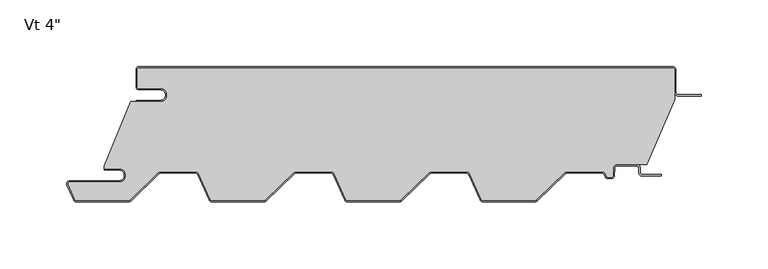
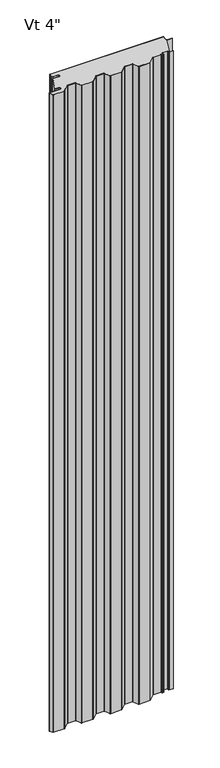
"""IFC4 building model written with IfcOpenShell, lengths in millimetres: plate geometry."""

import ifcopenshell
import ifcopenshell.guid

model = None  # the IFC model being written
_history = None  # IfcOwnerHistory: only IFC2X3 demands one
_inside = {}  # id of a spatial element -> (the spatial element, [elements in it])
_under = {}  # id of a project, library or spatial element -> (it, [spatial elements below it])
_declared = {}  # id of a project -> (the project, [libraries it declares])
_typed = {}  # id of a type object -> (the type object, [elements of that type])
_made_of = {}  # id of a material, layer set ... -> (it, [elements and type objects made of it])


def new_model(schema):
    """Start an empty IFC model of exactly this schema.

    Asked for "IFC4X3", IfcOpenShell would pick the latest addendum, in which some entities
    have other attributes; the version numbers below select the first issue.
    IFC2X3 requires an IfcOwnerHistory on every rooted entity: one is made here for all.
    """
    global model, _history
    if schema == "IFC4X3":
        model = ifcopenshell.file(schema_version=(4, 3, 0, 0))
    else:
        model = ifcopenshell.file(schema=schema)
    _inside.clear()
    _under.clear()
    _declared.clear()
    _typed.clear()
    _made_of.clear()
    _history = None
    if model.schema == "IFC2X3":
        org = make("IfcOrganization", Name="unknown")
        user = make(
            "IfcPersonAndOrganization",
            ThePerson=make("IfcPerson", FamilyName="unknown"),
            TheOrganization=org,
        )
        app = make(
            "IfcApplication",
            ApplicationDeveloper=org,
            Version="unknown",
            ApplicationFullName="unknown",
            ApplicationIdentifier="unknown",
        )
        _history = make(
            "IfcOwnerHistory",
            OwningUser=user,
            OwningApplication=app,
            ChangeAction="ADDED",
            CreationDate=0,
        )
    return model


def make(cls, **values):
    """One entity of the class cls with the attributes given. An attribute that is None is left unset."""
    return model.create_entity(
        cls, **{name: value for name, value in values.items() if value is not None}
    )


def rooted(cls, **values):
    """An entity with a GlobalId (a new one), such as an element, a storey or a relation."""
    return make(cls, GlobalId=ifcopenshell.guid.new(), OwnerHistory=_history, **values)


def si_unit(unit_type, name, prefix=None):
    """IfcSIUnit, for example si_unit("LENGTHUNIT", "METRE", prefix="MILLI")."""
    return make("IfcSIUnit", UnitType=unit_type, Prefix=prefix, Name=name)


def assignment(units):
    """IfcUnitAssignment: the units of a project."""
    return None if units is None else make("IfcUnitAssignment", Units=units)


def point(xyz):
    """IfcCartesianPoint."""
    return None if xyz is None else make("IfcCartesianPoint", Coordinates=xyz)


def direction(xyz):
    """IfcDirection."""
    return None if xyz is None else make("IfcDirection", DirectionRatios=xyz)


def frame(location, z_axis=None, x_axis=None):
    """IfcAxis2Placement3D, a coordinate frame: its origin and axes. An axis left out is left unset."""
    return make(
        "IfcAxis2Placement3D",
        Location=point(location),
        Axis=direction(z_axis),
        RefDirection=direction(x_axis),
    )


def frame_2d(location, x_axis=None):
    """IfcAxis2Placement2D, a coordinate frame in the plane: its origin and x axis."""
    return make(
        "IfcAxis2Placement2D", Location=point(location), RefDirection=direction(x_axis)
    )


def origin():
    """The frame at (0, 0, 0) with its axes left unset."""
    return frame((0.0, 0.0, 0.0))


def origin_with_axes():
    """The frame at (0, 0, 0) with the z axis (0, 0, 1) and the x axis (1, 0, 0) written out."""
    return frame((0.0, 0.0, 0.0), z_axis=(0.0, 0.0, 1.0), x_axis=(1.0, 0.0, 0.0))


def place(relative_to, where):
    """IfcLocalPlacement: puts the frame where relative to a parent placement (None: the world)."""
    return make(
        "IfcLocalPlacement", PlacementRelTo=relative_to, RelativePlacement=where
    )


def context(
    kind, dimensions, precision=None, world=None, true_north=None, identifier=None
):
    """IfcGeometricRepresentationContext, for example the 3D "Model" context."""
    return make(
        "IfcGeometricRepresentationContext",
        ContextIdentifier=identifier,
        ContextType=kind,
        CoordinateSpaceDimension=dimensions,
        Precision=precision,
        WorldCoordinateSystem=world,
        TrueNorth=true_north,
    )


def project(units=None, contexts=None):
    """IfcProject with its units and contexts."""
    return rooted(
        "IfcProject",
        Name="project",
        RepresentationContexts=contexts,
        UnitsInContext=assignment(units),
    )


def spatial(cls, under=None, at=None, **own):
    """A site, building, storey or space (cls), placed at a placement, below another one or the project."""
    s = rooted(cls, ObjectPlacement=at, **own)
    if under is not None:
        _under.setdefault(under.id(), (under, []))[1].append(s)
    return s


def polyline(points):
    """IfcPolyline through the points."""
    return make("IfcPolyline", Points=[point(p) for p in points])


def circle_curve(where, radius):
    """IfcCircle in the frame where."""
    return make("IfcCircle", Position=where, Radius=radius)


def trimmed(basis, trim1, trim2, sense, master):
    """IfcTrimmedCurve: the piece of a basis curve between two trims."""
    return make(
        "IfcTrimmedCurve",
        BasisCurve=basis,
        Trim1=trim1,
        Trim2=trim2,
        SenseAgreement=sense,
        MasterRepresentation=master,
    )


def segment(curve, same_sense, transition):
    """IfcCompositeCurveSegment."""
    return make(
        "IfcCompositeCurveSegment",
        Transition=transition,
        SameSense=same_sense,
        ParentCurve=curve,
    )


def composite_curve(segments, self_intersect=None):
    """IfcCompositeCurve: segments joined end to end."""
    return make("IfcCompositeCurve", Segments=segments, SelfIntersect=self_intersect)


def outline(outer, holes=None, kind="AREA"):
    """IfcArbitraryClosedProfileDef: a profile drawn as a closed curve; with holes, ...WithVoids."""
    if holes is None:
        return make("IfcArbitraryClosedProfileDef", ProfileType=kind, OuterCurve=outer)
    return make(
        "IfcArbitraryProfileDefWithVoids",
        ProfileType=kind,
        OuterCurve=outer,
        InnerCurves=holes,
    )


def extrude(swept, where, along, depth):
    """IfcExtrudedAreaSolid: the profile swept, set in the frame where, extruded along a direction by depth."""
    return make(
        "IfcExtrudedAreaSolid",
        SweptArea=swept,
        Position=where,
        ExtrudedDirection=direction(along),
        Depth=depth,
    )


def shape(context_of_items, identifier, shape_type, items):
    """IfcShapeRepresentation: the items that make up one representation, for example the "Body"."""
    return make(
        "IfcShapeRepresentation",
        ContextOfItems=context_of_items,
        RepresentationIdentifier=identifier,
        RepresentationType=shape_type,
        Items=items,
    )


def source(mapping_origin, context_of_items, identifier, shape_type, items):
    """IfcRepresentationMap: a shape defined once, which mapped items show again and again."""
    return make(
        "IfcRepresentationMap",
        MappingOrigin=mapping_origin,
        MappedRepresentation=shape(context_of_items, identifier, shape_type, items),
    )


def transform(
    local_origin,
    x_axis=None,
    y_axis=None,
    z_axis=None,
    scale=None,
    scale2=None,
    scale3=None,
    uniform=True,
):
    """IfcCartesianTransformationOperator3D, or its non-uniform kind. x_axis, y_axis, z_axis: its Axis1, 2, 3."""
    if uniform:
        return make(
            "IfcCartesianTransformationOperator3D",
            Axis1=direction(x_axis),
            Axis2=direction(y_axis),
            LocalOrigin=point(local_origin),
            Scale=scale,
            Axis3=direction(z_axis),
        )
    return make(
        "IfcCartesianTransformationOperator3DnonUniform",
        Axis1=direction(x_axis),
        Axis2=direction(y_axis),
        LocalOrigin=point(local_origin),
        Scale=scale,
        Axis3=direction(z_axis),
        Scale2=scale2,
        Scale3=scale3,
    )


def mapped(mapping_source, mapping_target):
    """IfcMappedItem: shows the shape of a source again, moved by a transform."""
    return make(
        "IfcMappedItem", MappingSource=mapping_source, MappingTarget=mapping_target
    )


def made_of(thing, what):
    """Note that an element or type object is made of a material, layer set ...; save() writes the relation."""
    if what is not None:
        _made_of.setdefault(what.id(), (what, []))[1].append(thing)
    return thing


def element(
    cls,
    number,
    at=None,
    inside=None,
    cuts=None,
    type_object=None,
    material=None,
    context=None,
    identifier="Body",
    shape_type=None,
    held_by="IfcProductDefinitionShape",
    body=None,
    shapes=None,
    **own,
):
    """One element of the class cls, such as IfcWall. Its Tag is "e" and its number.

    at: its placement. inside: the storey or other place that contains it. cuts: it is an
    opening in that element (IfcRelVoidsElement). A single representation is given by context,
    identifier, shape_type and body (its items); several are given by shapes. held_by: the class
    of the entity that holds the representations. save() writes the other relations.
    """
    e = rooted(cls, Tag="e%d" % number, ObjectPlacement=at, **own)
    if body is not None:
        shapes = [shape(context, identifier, shape_type, body)]
    if shapes is not None:
        e.Representation = make(held_by, Representations=shapes)
    if inside is not None:
        _inside.setdefault(inside.id(), (inside, []))[1].append(e)
    if cuts is not None:
        rooted(
            "IfcRelVoidsElement", RelatingBuildingElement=cuts, RelatedOpeningElement=e
        )
    if type_object is not None:
        _typed.setdefault(type_object.id(), (type_object, []))[1].append(e)
    return made_of(e, material)


def aggregate(whole, parts):
    """IfcRelAggregates: a whole, such as a stair, and the parts it consists of."""
    return rooted("IfcRelAggregates", RelatingObject=whole, RelatedObjects=parts)


def save(model, path):
    """Write the relations noted so far, then the file.

    IfcRelAggregates (storeys below a building ...), IfcRelContainedInSpatialStructure (elements
    in a storey), IfcRelDefinesByType, IfcRelAssociatesMaterial and IfcRelDeclares: one each for
    every whole, place, type object, material and project.
    """
    for whole, parts in _under.values():
        aggregate(whole, parts)
    for where, things in _inside.values():
        rooted(
            "IfcRelContainedInSpatialStructure",
            RelatedElements=things,
            RelatingStructure=where,
        )
    for kind, things in _typed.values():
        rooted("IfcRelDefinesByType", RelatedObjects=things, RelatingType=kind)
    for what, things in _made_of.values():
        rooted("IfcRelAssociatesMaterial", RelatedObjects=things, RelatingMaterial=what)
    for by, libraries in _declared.values():
        rooted("IfcRelDeclares", RelatingContext=by, RelatedDefinitions=libraries)
    model.write(path)


def plate_2a43e05b(model_context):
    return source(origin(), model_context, "Body", "SweptSolid", [
        extrude(outline(composite_curve([segment(trimmed(circle_curve(frame_2d((-184.14375, -21.4324412)), 4.96875), [point((-184.14375, -26.4011912))], [point((-184.14375, -16.4636912))], True, "CARTESIAN"), True, "CONTINUOUS"), segment(polyline([(-184.14375, -16.4636912), (-200.01875, -16.4636912)]), True, "CONTINUOUS"), segment(trimmed(circle_curve(frame_2d((-200.01875, -15.0824412)), 1.38125), [point((-200.01875, -16.4636912))], [point((-201.4, -15.0824412))], False, "CARTESIAN"), True, "CONTINUOUS"), segment(polyline([(-201.4, -15.0824412), (-201.4, -2.3824412)]), True, "CONTINUOUS"), segment(trimmed(circle_curve(frame_2d((-200.01875, -2.3824412)), 1.38125), [point((-201.4, -2.3824412))], [point((-200.01875, -1.0011912))], False, "CARTESIAN"), True, "CONTINUOUS"), segment(polyline([(-200.01875, -1.0011912), (200.03125, -1.0011912)]), True, "CONTINUOUS"), segment(trimmed(circle_curve(frame_2d((200.03125, -2.3824412)), 1.38125), [point((200.03125, -1.0011912))], [point((201.4125, -2.3824412))], False, "CARTESIAN"), True, "CONTINUOUS"), segment(polyline([(201.4125, -2.3824412), (201.4125, -24.8719682), (180.5955434, -73.6136912), (158.1683457, -73.6136912)]), True, "CONTINUOUS"), segment(trimmed(circle_curve(frame_2d((158.1683457, -76.2011912)), 2.5875), [point((158.1683457, -73.6136912))], [point((155.5843918, -76.0657719))], True, "CARTESIAN"), True, "CONTINUOUS"), segment(polyline([(155.5843918, -76.0657719), (155.2823155, -81.8297302)]), True, "CONTINUOUS"), segment(trimmed(circle_curve(frame_2d((153.9029585, -81.7574412)), 1.38125), [point((155.2823155, -81.8297302))], [point((153.9029585, -83.1386912))], False, "CARTESIAN"), True, "CONTINUOUS"), segment(polyline([(153.9029585, -83.1386912), (151.5754519, -83.1386912)]), True, "CONTINUOUS"), segment(trimmed(circle_curve(frame_2d((151.5754519, -81.7574412)), 1.38125), [point((151.5754519, -83.1386912))], [point((150.3124516, -82.3166208))], False, "CARTESIAN"), True, "CONTINUOUS"), segment(polyline([(150.3124516, -82.3166208), (149.5640306, -80.6261871)]), True, "CONTINUOUS"), segment(trimmed(circle_curve(frame_2d((147.1980481, -81.6737)), 2.5875), [point((149.5640306, -80.6261871))], [point((147.1980481, -79.0862))], True, "CARTESIAN"), True, "CONTINUOUS"), segment(polyline([(147.1980481, -79.0862), (120.6742003, -79.0862)]), True, "CONTINUOUS"), segment(trimmed(circle_curve(frame_2d((120.6742003, -81.6737)), 2.5875), [point((120.6742003, -79.0862))], [point((118.8745496, -79.8145567))], True, "CARTESIAN"), True, "CONTINUOUS"), segment(polyline([(118.8745496, -79.8145567), (97.8036462, -100.2111912)]), True, "CONTINUOUS"), segment(trimmed(circle_curve(frame_2d((96.8429631, -99.21875)), 1.38125), [point((97.8036462, -100.2111912))], [point((96.8429631, -100.6))], False, "CARTESIAN"), True, "CONTINUOUS"), segment(polyline([(96.8429631, -100.6), (57.7062557, -100.6)]), True, "CONTINUOUS"), segment(trimmed(circle_curve(frame_2d((57.7062557, -99.21875)), 1.38125), [point((57.7062557, -100.6))], [point((56.4432554, -99.7779296))], False, "CARTESIAN"), True, "CONTINUOUS"), segment(polyline([(56.4432554, -99.7779296), (47.9640306, -80.6261871)]), True, "CONTINUOUS"), segment(trimmed(circle_curve(frame_2d((45.5980481, -81.6737)), 2.5875), [point((47.9640306, -80.6261871))], [point((45.5980481, -79.0862))], True, "CARTESIAN"), True, "CONTINUOUS"), segment(polyline([(45.5980481, -79.0862), (19.0742003, -79.0862)]), True, "CONTINUOUS"), segment(trimmed(circle_curve(frame_2d((19.0742003, -81.6737)), 2.5875), [point((19.0742003, -79.0862))], [point((17.2745496, -79.8145567))], True, "CARTESIAN"), True, "CONTINUOUS"), segment(polyline([(17.2745496, -79.8145567), (-3.7963538, -100.2111912)]), True, "CONTINUOUS"), segment(trimmed(circle_curve(frame_2d((-4.7570369, -99.21875)), 1.38125), [point((-3.7963538, -100.2111912))], [point((-4.7570369, -100.6))], False, "CARTESIAN"), True, "CONTINUOUS"), segment(polyline([(-4.7570369, -100.6), (-43.8937443, -100.6)]), True, "CONTINUOUS"), segment(trimmed(circle_curve(frame_2d((-43.8937443, -99.21875)), 1.38125), [point((-43.8937443, -100.6))], [point((-45.1567446, -99.7779296))], False, "CARTESIAN"), True, "CONTINUOUS"), segment(polyline([(-45.1567446, -99.7779296), (-53.6359694, -80.6261871)]), True, "CONTINUOUS"), segment(trimmed(circle_curve(frame_2d((-56.0019519, -81.6737)), 2.5875), [point((-53.6359694, -80.6261871))], [point((-56.0019519, -79.0862))], True, "CARTESIAN"), True, "CONTINUOUS"), segment(polyline([(-56.0019519, -79.0862), (-82.5257997, -79.0862)]), True, "CONTINUOUS"), segment(trimmed(circle_curve(frame_2d((-82.5257997, -81.6737)), 2.5875), [point((-82.5257997, -79.0862))], [point((-84.3254504, -79.8145567))], True, "CARTESIAN"), True, "CONTINUOUS"), segment(polyline([(-84.3254504, -79.8145567), (-105.3963538, -100.2111912)]), True, "CONTINUOUS"), segment(trimmed(circle_curve(frame_2d((-106.3570369, -99.21875)), 1.38125), [point((-105.3963538, -100.2111912))], [point((-106.3570369, -100.6))], False, "CARTESIAN"), True, "CONTINUOUS"), segment(polyline([(-106.3570369, -100.6), (-145.4937443, -100.6)]), True, "CONTINUOUS"), segment(trimmed(circle_curve(frame_2d((-145.4937443, -99.21875)), 1.38125), [point((-145.4937443, -100.6))], [point((-146.7567446, -99.7779296))], False, "CARTESIAN"), True, "CONTINUOUS"), segment(polyline([(-146.7567446, -99.7779296), (-155.2359694, -80.6261871)]), True, "CONTINUOUS"), segment(trimmed(circle_curve(frame_2d((-157.6019519, -81.6737)), 2.5875), [point((-155.2359694, -80.6261871))], [point((-157.6019519, -79.0862))], True, "CARTESIAN"), True, "CONTINUOUS"), segment(polyline([(-157.6019519, -79.0862), (-184.1257997, -79.0862)]), True, "CONTINUOUS"), segment(trimmed(circle_curve(frame_2d((-184.1257997, -81.6737)), 2.5875), [point((-184.1257997, -79.0862))], [point((-185.9254504, -79.8145567))], True, "CARTESIAN"), True, "CONTINUOUS"), segment(polyline([(-185.9254504, -79.8145567), (-206.7876931, -100.0092077)]), True, "CONTINUOUS"), segment(trimmed(circle_curve(frame_2d((-208.2474446, -98.5012)), 2.0988), [point((-206.7876931, -100.0092077))], [point((-208.2474446, -100.6))], False, "CARTESIAN"), True, "CONTINUOUS"), segment(polyline([(-208.2474446, -100.6), (-247.0937443, -100.6)]), True, "CONTINUOUS"), segment(trimmed(circle_curve(frame_2d((-247.0937443, -99.21875)), 1.38125), [point((-247.0937443, -100.6))], [point((-248.3567446, -99.7779296))], False, "CARTESIAN"), True, "CONTINUOUS"), segment(polyline([(-248.3567446, -99.7779296), (-253.2761552, -88.6666208)]), True, "CONTINUOUS"), segment(trimmed(circle_curve(frame_2d((-252.0131549, -88.1074412)), 1.38125), [point((-253.2761552, -88.6666208))], [point((-252.0131549, -86.7261912))], False, "CARTESIAN"), True, "CONTINUOUS"), segment(polyline([(-252.0131549, -86.7261912), (-215.1, -86.7261912)]), True, "CONTINUOUS"), segment(trimmed(circle_curve(frame_2d((-215.1, -81.7574412)), 4.96875), [point((-215.1, -86.7261912))], [point((-215.1, -76.7886912))], True, "CARTESIAN"), True, "CONTINUOUS"), segment(polyline([(-215.1, -76.7886912), (-226.2125, -76.7886912), (-226.2125, -74.633822), (-206.3914112, -26.4011912), (-184.14375, -26.4011912)]), True, "CONTINUOUS")], self_intersect=False)), origin_with_axes(), (0.0, 0.0, 1.0), 2400.0),
        extrude(outline(composite_curve([segment(polyline([(-202.4, -25.4), (-184.14375, -25.4)]), True, "CONTINUOUS"), segment(trimmed(circle_curve(frame_2d((-184.14375, -21.43125)), 3.96875), [point((-184.14375, -25.4))], [point((-184.14375, -17.4625))], True, "CARTESIAN"), True, "CONTINUOUS"), segment(polyline([(-184.14375, -17.4625), (-200.01875, -17.4625)]), True, "CONTINUOUS"), segment(trimmed(circle_curve(frame_2d((-200.01875, -15.08125)), 2.38125), [point((-200.01875, -17.4625))], [point((-202.4, -15.08125))], False, "CARTESIAN"), True, "CONTINUOUS"), segment(polyline([(-202.4, -15.08125), (-202.4, -2.38125)]), True, "CONTINUOUS"), segment(trimmed(circle_curve(frame_2d((-200.01875, -2.38125)), 2.38125), [point((-202.4, -2.38125))], [point((-200.01875, 0.0))], False, "CARTESIAN"), True, "CONTINUOUS"), segment(polyline([(-200.01875, 0.0), (200.03125, 0.0)]), True, "CONTINUOUS"), segment(trimmed(circle_curve(frame_2d((200.03125, -2.38125)), 2.38125), [point((200.03125, 0.0))], [point((202.4125, -2.38125))], False, "CARTESIAN"), True, "CONTINUOUS"), segment(polyline([(202.4125, -2.38125), (202.4125, -19.446875)]), True, "CONTINUOUS"), segment(trimmed(circle_curve(frame_2d((204.0, -19.446875)), 1.5875), [point((202.4125, -19.446875))], [point((204.0, -21.034375))], True, "CARTESIAN"), True, "CONTINUOUS"), segment(polyline([(204.0, -21.034375), (221.4625, -21.034375), (221.4625, -22.034375), (204.0, -22.034375)]), True, "CONTINUOUS"), segment(trimmed(circle_curve(frame_2d((204.0, -19.446875)), 2.5875), [point((204.0, -22.034375))], [point((201.4125, -19.446875))], False, "CARTESIAN"), True, "CONTINUOUS"), segment(polyline([(201.4125, -19.446875), (201.4125, -2.38125)]), True, "CONTINUOUS"), segment(trimmed(circle_curve(frame_2d((200.03125, -2.38125)), 1.38125), [point((201.4125, -2.38125))], [point((200.03125, -1.0))], True, "CARTESIAN"), True, "CONTINUOUS"), segment(polyline([(200.03125, -1.0), (-200.01875, -1.0)]), True, "CONTINUOUS"), segment(trimmed(circle_curve(frame_2d((-200.01875, -2.38125)), 1.38125), [point((-200.01875, -1.0))], [point((-201.4, -2.38125))], True, "CARTESIAN"), True, "CONTINUOUS"), segment(polyline([(-201.4, -2.38125), (-201.4, -15.08125)]), True, "CONTINUOUS"), segment(trimmed(circle_curve(frame_2d((-200.01875, -15.08125)), 1.38125), [point((-201.4, -15.08125))], [point((-200.01875, -16.4625))], True, "CARTESIAN"), True, "CONTINUOUS"), segment(polyline([(-200.01875, -16.4625), (-184.14375, -16.4625)]), True, "CONTINUOUS"), segment(trimmed(circle_curve(frame_2d((-184.14375, -21.43125)), 4.96875), [point((-184.14375, -16.4625))], [point((-184.14375, -26.4))], False, "CARTESIAN"), True, "CONTINUOUS"), segment(polyline([(-184.14375, -26.4), (-202.4, -26.4), (-202.4, -25.4)]), True, "CONTINUOUS")], self_intersect=False)), origin_with_axes(), (0.0, 0.0, 1.0), 2400.0),
        extrude(outline(composite_curve([segment(trimmed(circle_curve(frame_2d((-215.1, -81.7574412)), 3.96875), [point((-215.1, -85.7261912))], [point((-215.1, -77.7886912))], True, "CARTESIAN"), True, "CONTINUOUS"), segment(polyline([(-215.1, -77.7886912), (-226.2125, -77.7886912), (-226.2125, -76.7886912), (-215.1, -76.7886912)]), True, "CONTINUOUS"), segment(trimmed(circle_curve(frame_2d((-215.1, -81.7574412)), 4.96875), [point((-215.1, -76.7886912))], [point((-215.1, -86.7261912))], False, "CARTESIAN"), True, "CONTINUOUS"), segment(polyline([(-215.1, -86.7261912), (-252.0131549, -86.7261912)]), True, "CONTINUOUS"), segment(trimmed(circle_curve(frame_2d((-252.0131549, -88.1074412)), 1.38125), [point((-252.0131549, -86.7261912))], [point((-253.2761552, -88.6666208))], True, "CARTESIAN"), True, "CONTINUOUS"), segment(polyline([(-253.2761552, -88.6666208), (-248.3567446, -99.7779296)]), True, "CONTINUOUS"), segment(trimmed(circle_curve(frame_2d((-247.0937443, -99.21875)), 1.38125), [point((-248.3567446, -99.7779296))], [point((-247.0937443, -100.6))], True, "CARTESIAN"), True, "CONTINUOUS"), segment(polyline([(-247.0937443, -100.6), (-208.2474446, -100.6)]), True, "CONTINUOUS"), segment(trimmed(circle_curve(frame_2d((-208.2474446, -98.5012)), 2.0988), [point((-208.2474446, -100.6))], [point((-206.7876931, -100.0092077))], True, "CARTESIAN"), True, "CONTINUOUS"), segment(polyline([(-206.7876931, -100.0092077), (-185.9254504, -79.8145567)]), True, "CONTINUOUS"), segment(trimmed(circle_curve(frame_2d((-184.1257997, -81.6737)), 2.5875), [point((-185.9254504, -79.8145567))], [point((-184.1257997, -79.0862))], False, "CARTESIAN"), True, "CONTINUOUS"), segment(polyline([(-184.1257997, -79.0862), (-157.6019519, -79.0862)]), True, "CONTINUOUS"), segment(trimmed(circle_curve(frame_2d((-157.6019519, -81.6737)), 2.5875), [point((-157.6019519, -79.0862))], [point((-155.2359694, -80.6261871))], False, "CARTESIAN"), True, "CONTINUOUS"), segment(polyline([(-155.2359694, -80.6261871), (-146.7567446, -99.7779296)]), True, "CONTINUOUS"), segment(trimmed(circle_curve(frame_2d((-145.4937443, -99.21875)), 1.38125), [point((-146.7567446, -99.7779296))], [point((-145.4937443, -100.6))], True, "CARTESIAN"), True, "CONTINUOUS"), segment(polyline([(-145.4937443, -100.6), (-106.3570369, -100.6)]), True, "CONTINUOUS"), segment(trimmed(circle_curve(frame_2d((-106.3570369, -99.21875)), 1.38125), [point((-106.3570369, -100.6))], [point((-105.3963538, -100.2111912))], True, "CARTESIAN"), True, "CONTINUOUS"), segment(polyline([(-105.3963538, -100.2111912), (-84.3254504, -79.8145567)]), True, "CONTINUOUS"), segment(trimmed(circle_curve(frame_2d((-82.5257997, -81.6737)), 2.5875), [point((-84.3254504, -79.8145567))], [point((-82.5257997, -79.0862))], False, "CARTESIAN"), True, "CONTINUOUS"), segment(polyline([(-82.5257997, -79.0862), (-56.0019519, -79.0862)]), True, "CONTINUOUS"), segment(trimmed(circle_curve(frame_2d((-56.0019519, -81.6737)), 2.5875), [point((-56.0019519, -79.0862))], [point((-53.6359694, -80.6261871))], False, "CARTESIAN"), True, "CONTINUOUS"), segment(polyline([(-53.6359694, -80.6261871), (-45.1567446, -99.7779296)]), True, "CONTINUOUS"), segment(trimmed(circle_curve(frame_2d((-43.8937443, -99.21875)), 1.38125), [point((-45.1567446, -99.7779296))], [point((-43.8937443, -100.6))], True, "CARTESIAN"), True, "CONTINUOUS"), segment(polyline([(-43.8937443, -100.6), (-4.7570369, -100.6)]), True, "CONTINUOUS"), segment(trimmed(circle_curve(frame_2d((-4.7570369, -99.21875)), 1.38125), [point((-4.7570369, -100.6))], [point((-3.7963538, -100.2111912))], True, "CARTESIAN"), True, "CONTINUOUS"), segment(polyline([(-3.7963538, -100.2111912), (17.2745496, -79.8145567)]), True, "CONTINUOUS"), segment(trimmed(circle_curve(frame_2d((19.0742003, -81.6737)), 2.5875), [point((17.2745496, -79.8145567))], [point((19.0742003, -79.0862))], False, "CARTESIAN"), True, "CONTINUOUS"), segment(polyline([(19.0742003, -79.0862), (45.5980481, -79.0862)]), True, "CONTINUOUS"), segment(trimmed(circle_curve(frame_2d((45.5980481, -81.6737)), 2.5875), [point((45.5980481, -79.0862))], [point((47.9640306, -80.6261871))], False, "CARTESIAN"), True, "CONTINUOUS"), segment(polyline([(47.9640306, -80.6261871), (56.4432554, -99.7779296)]), True, "CONTINUOUS"), segment(trimmed(circle_curve(frame_2d((57.7062557, -99.21875)), 1.38125), [point((56.4432554, -99.7779296))], [point((57.7062557, -100.6))], True, "CARTESIAN"), True, "CONTINUOUS"), segment(polyline([(57.7062557, -100.6), (96.8429631, -100.6)]), True, "CONTINUOUS"), segment(trimmed(circle_curve(frame_2d((96.8429631, -99.21875)), 1.38125), [point((96.8429631, -100.6))], [point((97.8036462, -100.2111912))], True, "CARTESIAN"), True, "CONTINUOUS"), segment(polyline([(97.8036462, -100.2111912), (118.8745496, -79.8145567)]), True, "CONTINUOUS"), segment(trimmed(circle_curve(frame_2d((120.6742003, -81.6737)), 2.5875), [point((118.8745496, -79.8145567))], [point((120.6742003, -79.0862))], False, "CARTESIAN"), True, "CONTINUOUS"), segment(polyline([(120.6742003, -79.0862), (147.1980481, -79.0862)]), True, "CONTINUOUS"), segment(trimmed(circle_curve(frame_2d((147.1980481, -81.6737)), 2.5875), [point((147.1980481, -79.0862))], [point((149.5640306, -80.6261871))], False, "CARTESIAN"), True, "CONTINUOUS"), segment(polyline([(149.5640306, -80.6261871), (150.3124516, -82.3166208)]), True, "CONTINUOUS"), segment(trimmed(circle_curve(frame_2d((151.5754519, -81.7574412)), 1.38125), [point((150.3124516, -82.3166208))], [point((151.5754519, -83.1386912))], True, "CARTESIAN"), True, "CONTINUOUS"), segment(polyline([(151.5754519, -83.1386912), (153.9029585, -83.1386912)]), True, "CONTINUOUS"), segment(trimmed(circle_curve(frame_2d((153.9029585, -81.7574412)), 1.38125), [point((153.9029585, -83.1386912))], [point((155.2823155, -81.8297302))], True, "CARTESIAN"), True, "CONTINUOUS"), segment(polyline([(155.2823155, -81.8297302), (155.5843918, -76.0657719)]), True, "CONTINUOUS"), segment(trimmed(circle_curve(frame_2d((158.1683457, -76.2011912)), 2.5875), [point((155.5843918, -76.0657719))], [point((158.1683457, -73.6136912))], False, "CARTESIAN"), True, "CONTINUOUS"), segment(polyline([(158.1683457, -73.6136912), (173.04375, -73.6136912)]), True, "CONTINUOUS"), segment(trimmed(circle_curve(frame_2d((173.04375, -76.2011912)), 2.5875), [point((173.04375, -73.6136912))], [point((175.63125, -76.2011912))], False, "CARTESIAN"), True, "CONTINUOUS"), segment(polyline([(175.63125, -76.2011912), (175.63125, -79.7730662)]), True, "CONTINUOUS"), segment(trimmed(circle_curve(frame_2d((177.0125, -79.7730662)), 1.38125), [point((175.63125, -79.7730662))], [point((177.0125, -81.1543162))], True, "CARTESIAN"), True, "CONTINUOUS"), segment(polyline([(177.0125, -81.1543162), (191.3, -81.1543162), (191.3, -82.1543162), (177.0125, -82.1543162)]), True, "CONTINUOUS"), segment(trimmed(circle_curve(frame_2d((177.0125, -79.7730662)), 2.38125), [point((177.0125, -82.1543162))], [point((174.63125, -79.7730662))], False, "CARTESIAN"), True, "CONTINUOUS"), segment(polyline([(174.63125, -79.7730662), (174.63125, -76.2011912)]), True, "CONTINUOUS"), segment(trimmed(circle_curve(frame_2d((173.04375, -76.2011912)), 1.5875), [point((174.63125, -76.2011912))], [point((173.04375, -74.6136912))], True, "CARTESIAN"), True, "CONTINUOUS"), segment(polyline([(173.04375, -74.6136912), (158.1683457, -74.6136912)]), True, "CONTINUOUS"), segment(trimmed(circle_curve(frame_2d((158.1683457, -76.2011912)), 1.5875), [point((158.1683457, -74.6136912))], [point((156.5830213, -76.1181078))], True, "CARTESIAN"), True, "CONTINUOUS"), segment(polyline([(156.5830213, -76.1181078), (156.2809451, -81.8820662)]), True, "CONTINUOUS"), segment(trimmed(circle_curve(frame_2d((153.9029585, -81.7574412)), 2.38125), [point((156.2809451, -81.8820662))], [point((153.9029585, -84.1386912))], False, "CARTESIAN"), True, "CONTINUOUS"), segment(polyline([(153.9029585, -84.1386912), (151.5754519, -84.1386912)]), True, "CONTINUOUS"), segment(trimmed(circle_curve(frame_2d((151.5754519, -81.7574412)), 2.38125), [point((151.5754519, -84.1386912))], [point((149.3980623, -82.7214567))], False, "CARTESIAN"), True, "CONTINUOUS"), segment(polyline([(149.3980623, -82.7214567), (148.6496412, -81.031023)]), True, "CONTINUOUS"), segment(trimmed(circle_curve(frame_2d((147.1980481, -81.6737)), 1.5875), [point((148.6496412, -81.031023))], [point((147.1980481, -80.0862))], True, "CARTESIAN"), True, "CONTINUOUS"), segment(polyline([(147.1980481, -80.0862), (120.6742003, -80.0862)]), True, "CONTINUOUS"), segment(trimmed(circle_curve(frame_2d((120.6742003, -81.6737)), 1.5875), [point((120.6742003, -80.0862))], [point((119.5700668, -80.5330662))], True, "CARTESIAN"), True, "CONTINUOUS"), segment(polyline([(119.5700668, -80.5330662), (98.4991634, -100.9297007)]), True, "CONTINUOUS"), segment(trimmed(circle_curve(frame_2d((96.8429631, -99.21875)), 2.38125), [point((98.4991634, -100.9297007))], [point((96.8429631, -101.6))], False, "CARTESIAN"), True, "CONTINUOUS"), segment(polyline([(96.8429631, -101.6), (57.7062557, -101.6)]), True, "CONTINUOUS"), segment(trimmed(circle_curve(frame_2d((57.7062557, -99.21875)), 2.38125), [point((57.7062557, -101.6))], [point((55.5288661, -100.1827655))], False, "CARTESIAN"), True, "CONTINUOUS"), segment(polyline([(55.5288661, -100.1827655), (47.0496412, -81.031023)]), True, "CONTINUOUS"), segment(trimmed(circle_curve(frame_2d((45.5980481, -81.6737)), 1.5875), [point((47.0496412, -81.031023))], [point((45.5980481, -80.0862))], True, "CARTESIAN"), True, "CONTINUOUS"), segment(polyline([(45.5980481, -80.0862), (19.0742003, -80.0862)]), True, "CONTINUOUS"), segment(trimmed(circle_curve(frame_2d((19.0742003, -81.6737)), 1.5875), [point((19.0742003, -80.0862))], [point((17.9700668, -80.5330662))], True, "CARTESIAN"), True, "CONTINUOUS"), segment(polyline([(17.9700668, -80.5330662), (-3.1008366, -100.9297007)]), True, "CONTINUOUS"), segment(trimmed(circle_curve(frame_2d((-4.7570369, -99.21875)), 2.38125), [point((-3.1008366, -100.9297007))], [point((-4.7570369, -101.6))], False, "CARTESIAN"), True, "CONTINUOUS"), segment(polyline([(-4.7570369, -101.6), (-43.8937443, -101.6)]), True, "CONTINUOUS"), segment(trimmed(circle_curve(frame_2d((-43.8937443, -99.21875)), 2.38125), [point((-43.8937443, -101.6))], [point((-46.0711339, -100.1827655))], False, "CARTESIAN"), True, "CONTINUOUS"), segment(polyline([(-46.0711339, -100.1827655), (-54.5503588, -81.031023)]), True, "CONTINUOUS"), segment(trimmed(circle_curve(frame_2d((-56.0019519, -81.6737)), 1.5875), [point((-54.5503588, -81.031023))], [point((-56.0019519, -80.0862))], True, "CARTESIAN"), True, "CONTINUOUS"), segment(polyline([(-56.0019519, -80.0862), (-82.5257997, -80.0862)]), True, "CONTINUOUS"), segment(trimmed(circle_curve(frame_2d((-82.5257997, -81.6737)), 1.5875), [point((-82.5257997, -80.0862))], [point((-83.6299332, -80.5330662))], True, "CARTESIAN"), True, "CONTINUOUS"), segment(polyline([(-83.6299332, -80.5330662), (-104.7008366, -100.9297007)]), True, "CONTINUOUS"), segment(trimmed(circle_curve(frame_2d((-106.3570369, -99.21875)), 2.38125), [point((-104.7008366, -100.9297007))], [point((-106.3570369, -101.6))], False, "CARTESIAN"), True, "CONTINUOUS"), segment(polyline([(-106.3570369, -101.6), (-145.4937443, -101.6)]), True, "CONTINUOUS"), segment(trimmed(circle_curve(frame_2d((-145.4937443, -99.21875)), 2.38125), [point((-145.4937443, -101.6))], [point((-147.6711339, -100.1827655))], False, "CARTESIAN"), True, "CONTINUOUS"), segment(polyline([(-147.6711339, -100.1827655), (-156.1503588, -81.031023)]), True, "CONTINUOUS"), segment(trimmed(circle_curve(frame_2d((-157.6019519, -81.6737)), 1.5875), [point((-156.1503588, -81.031023))], [point((-157.6019519, -80.0862))], True, "CARTESIAN"), True, "CONTINUOUS"), segment(polyline([(-157.6019519, -80.0862), (-184.1257997, -80.0862)]), True, "CONTINUOUS"), segment(trimmed(circle_curve(frame_2d((-184.1257997, -81.6737)), 1.5875), [point((-184.1257997, -80.0862))], [point((-185.2299332, -80.5330662))], True, "CARTESIAN"), True, "CONTINUOUS"), segment(polyline([(-185.2299332, -80.5330662), (-206.0921759, -100.7277172)]), True, "CONTINUOUS"), segment(trimmed(circle_curve(frame_2d((-208.2474446, -98.5012)), 3.0988), [point((-206.0921759, -100.7277172))], [point((-208.2474446, -101.6))], False, "CARTESIAN"), True, "CONTINUOUS"), segment(polyline([(-208.2474446, -101.6), (-247.0937443, -101.6)]), True, "CONTINUOUS"), segment(trimmed(circle_curve(frame_2d((-247.0937443, -99.21875)), 2.38125), [point((-247.0937443, -101.6))], [point((-249.2711339, -100.1827655))], False, "CARTESIAN"), True, "CONTINUOUS"), segment(polyline([(-249.2711339, -100.1827655), (-254.1905446, -89.0714567)]), True, "CONTINUOUS"), segment(trimmed(circle_curve(frame_2d((-252.0131549, -88.1074412)), 2.38125), [point((-254.1905446, -89.0714567))], [point((-252.0131549, -85.7261912))], False, "CARTESIAN"), True, "CONTINUOUS"), segment(polyline([(-252.0131549, -85.7261912), (-215.1, -85.7261912)]), True, "CONTINUOUS")], self_intersect=False)), origin_with_axes(), (0.0, 0.0, 1.0), 2400.0),
    ])


if __name__ == "__main__":
    model = new_model("IFC4")
    model_context = context("Model", 3, world=origin())
    ifc_project = project(units=[si_unit("LENGTHUNIT", "METRE", prefix="MILLI")], contexts=[model_context])
    site = spatial("IfcSite", under=ifc_project)
    building = spatial("IfcBuilding", under=site)
    placement = place(None, origin())
    plate_shape = plate_2a43e05b(model_context)
    element("IfcPlate", 1, ObjectType="KIP-16-DWR-R19-CP-Vt-S : Vt 4\"", at=placement, inside=building, context=model_context, shape_type="MappedRepresentation", body=[
        mapped(plate_shape, transform((0.0, 0.0, 0.0), x_axis=(1.0, 0.0, 0.0), y_axis=(0.0, 1.0, 0.0), z_axis=(0.0, 0.0, 1.0))),
    ])
    save(model, "model.ifc")
